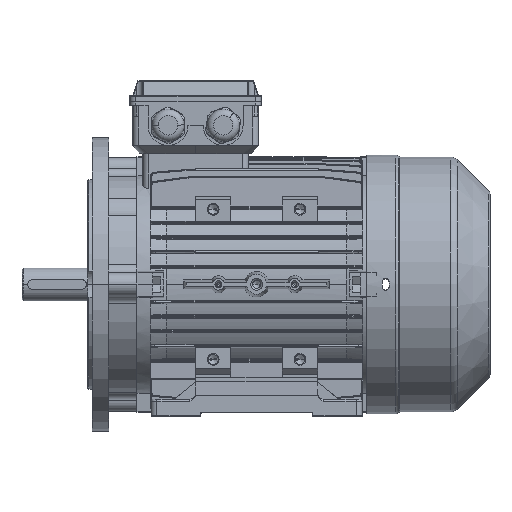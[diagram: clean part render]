
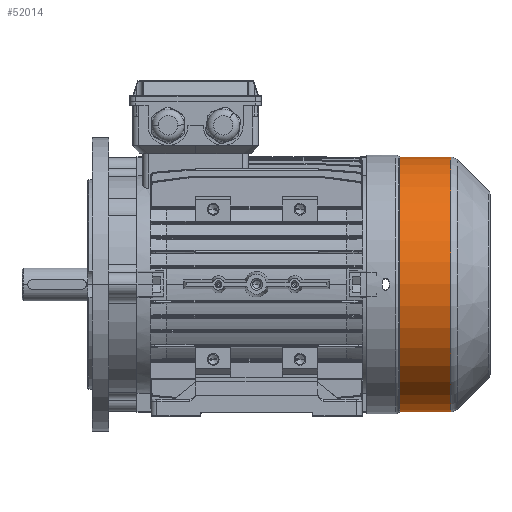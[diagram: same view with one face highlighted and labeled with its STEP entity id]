
A CAD part, top view. The second image highlights one B-rep face of the part: STEP entity #52014.
In plain terms, the highlighted cylindrical face has radius 108.5 mm (diameter 217 mm), a partial arc.
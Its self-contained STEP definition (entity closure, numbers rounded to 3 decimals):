
#3079 = AXIS2_PLACEMENT_3D ( 'NONE', #69433, #56833, #44233 ) ;
#5219 = DIRECTION ( 'NONE',  ( 0., -1., 0. ) ) ;
#5303 = CARTESIAN_POINT ( 'NONE',  ( -102., 108.5, 0. ) ) ;
#7479 = VERTEX_POINT ( 'NONE', #23446 ) ;
#14811 = DIRECTION ( 'NONE',  ( 0., 1., 0. ) ) ;
#17862 = DIRECTION ( 'NONE',  ( -1., 0., 0. ) ) ;
#17944 = LINE ( 'NONE', #5303, #116113 ) ;
#23446 = CARTESIAN_POINT ( 'NONE',  ( -28.164, 108.5, 0. ) ) ;
#26784 = DIRECTION ( 'NONE',  ( -1., 0., 0. ) ) ;
#27422 = DIRECTION ( 'NONE',  ( 1., 0., 0. ) ) ;
#29080 = VERTEX_POINT ( 'NONE', #97859 ) ;
#30427 = VERTEX_POINT ( 'NONE', #52150 ) ;
#30486 = CARTESIAN_POINT ( 'NONE',  ( -28.164, 0., 0. ) ) ;
#33109 = ORIENTED_EDGE ( 'NONE', *, *, #34700, .T. ) ;
#34700 = EDGE_CURVE ( 'NONE', #80862, #30427, #41170, .T. ) ;
#35767 = ORIENTED_EDGE ( 'NONE', *, *, #82831, .T. ) ;
#36955 = AXIS2_PLACEMENT_3D ( 'NONE', #40069, #27422, #14811 ) ;
#39082 = CIRCLE ( 'NONE', #116363, 108.5 ) ;
#39432 = CARTESIAN_POINT ( 'NONE',  ( -102., -108.5, 0. ) ) ;
#40069 = CARTESIAN_POINT ( 'NONE',  ( -71.699, 0., 0. ) ) ;
#41170 = CIRCLE ( 'NONE', #36955, 108.5 ) ;
#44233 = DIRECTION ( 'NONE',  ( 0., -1., 0. ) ) ;
#52014 = ADVANCED_FACE ( 'NONE', ( #110503 ), #116841, .T. ) ;
#52074 = LINE ( 'NONE', #39432, #81405 ) ;
#52150 = CARTESIAN_POINT ( 'NONE',  ( -71.699, 108.5, 0. ) ) ;
#56833 = DIRECTION ( 'NONE',  ( -1., 0., 0. ) ) ;
#64888 = EDGE_CURVE ( 'NONE', #7479, #30427, #17944, .T. ) ;
#69433 = CARTESIAN_POINT ( 'NONE',  ( -102., 0., 0. ) ) ;
#77681 = ORIENTED_EDGE ( 'NONE', *, *, #64888, .F. ) ;
#79963 = ORIENTED_EDGE ( 'NONE', *, *, #82712, .T. ) ;
#80862 = VERTEX_POINT ( 'NONE', #122824 ) ;
#81405 = VECTOR ( 'NONE', #26784, 1000. ) ;
#82712 = EDGE_CURVE ( 'NONE', #29080, #80862, #52074, .T. ) ;
#82831 = EDGE_CURVE ( 'NONE', #7479, #29080, #39082, .T. ) ;
#97859 = CARTESIAN_POINT ( 'NONE',  ( -28.164, -108.5, 0. ) ) ;
#110503 = FACE_OUTER_BOUND ( 'NONE', #115370, .T. ) ;
#115370 = EDGE_LOOP ( 'NONE', ( #77681, #35767, #79963, #33109 ) ) ;
#115946 = DIRECTION ( 'NONE',  ( -1., 0., 0. ) ) ;
#116113 = VECTOR ( 'NONE', #115946, 1000. ) ;
#116363 = AXIS2_PLACEMENT_3D ( 'NONE', #30486, #17862, #5219 ) ;
#116841 = CYLINDRICAL_SURFACE ( 'NONE', #3079, 108.5 ) ;
#122824 = CARTESIAN_POINT ( 'NONE',  ( -71.699, -108.5, 0. ) ) ;
